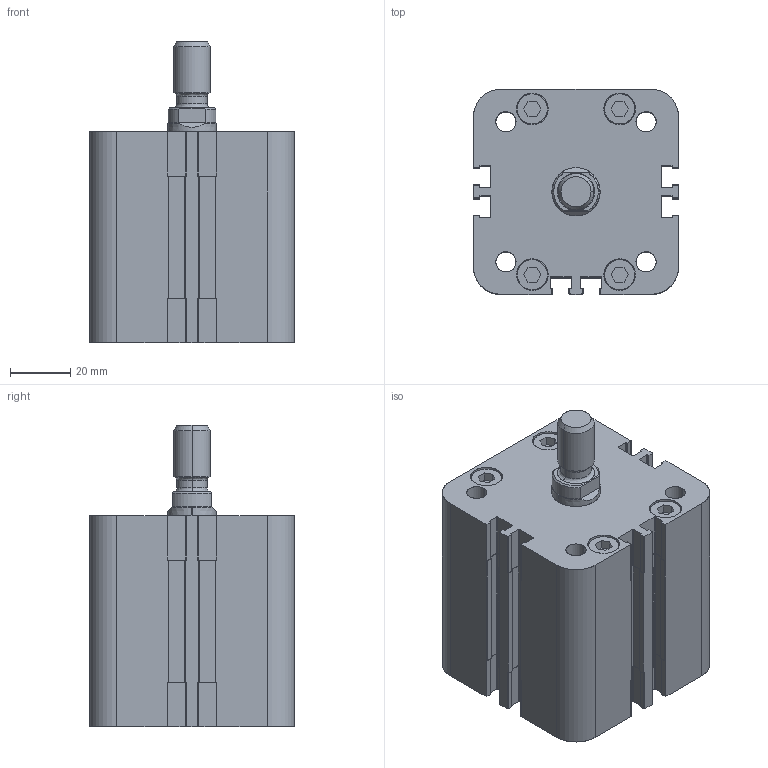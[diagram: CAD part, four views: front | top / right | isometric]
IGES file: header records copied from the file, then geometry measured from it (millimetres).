
Start section: SolidWorks IGES file using analytic representation for surfaces
Global section: file name: K:\Disegni Esecutivi\Cilindri\2_DISEGNI_cilindri_in_produzione\CILINDRO_ISO_21287\seconda versione cilindro 21287\2_CIL50\Complessivo_W50\W50_PIENI\WBM050\WBM0500025A.igs; native system: SolidWorks 2011; preprocessor: SolidWorks 2011; author: Cad01; date: 120803.170532; units: millimetre
Bounding box: 68 x 68 x 100 mm (x, y, z)
Surface area: 43373.8 mm2 (no closed solid volume)
Topology: 0 solids, 0 shells, 464 faces, 5007 edges, 5007 vertices
Faces by surface type: bspline 235, revolution 229
